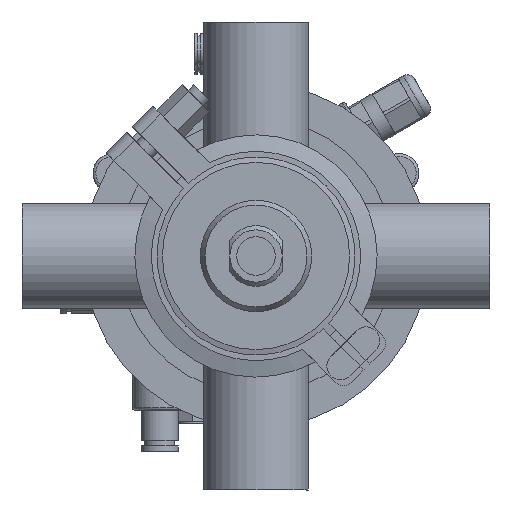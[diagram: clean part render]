
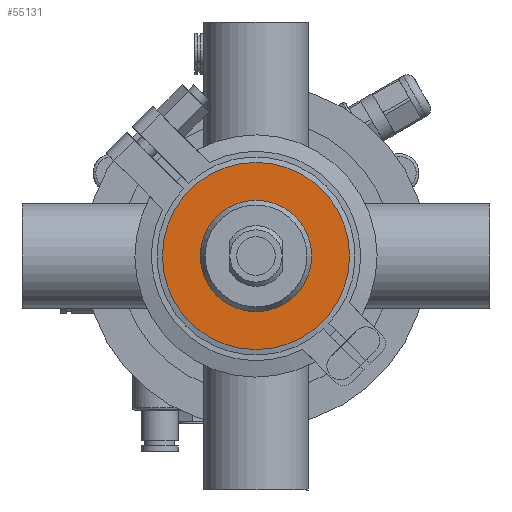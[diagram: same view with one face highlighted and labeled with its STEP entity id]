
A CAD part, front view. The second image highlights one B-rep face of the part: STEP entity #55131.
In plain terms, the highlighted planar face has unit normal (0, -1, 0).
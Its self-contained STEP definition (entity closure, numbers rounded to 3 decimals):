
#1156 = DIRECTION ( 'NONE',  ( 0., -1., 0. ) ) ;
#5902 = EDGE_CURVE ( 'NONE', #35604, #35604, #22207, .T. ) ;
#6818 = CARTESIAN_POINT ( 'NONE',  ( 0., -13., 34. ) ) ;
#14964 = DIRECTION ( 'NONE',  ( 0., 1., 0. ) ) ;
#15429 = EDGE_LOOP ( 'NONE', ( #16932 ) ) ;
#16139 = AXIS2_PLACEMENT_3D ( 'NONE', #49465, #20329, #49159 ) ;
#16417 = FACE_OUTER_BOUND ( 'NONE', #48871, .T. ) ;
#16932 = ORIENTED_EDGE ( 'NONE', *, *, #44991, .T. ) ;
#17458 = AXIS2_PLACEMENT_3D ( 'NONE', #52995, #14964, #62145 ) ;
#20235 = FACE_BOUND ( 'NONE', #15429, .T. ) ;
#20329 = DIRECTION ( 'NONE',  ( 0., 1., 0. ) ) ;
#20544 = DIRECTION ( 'NONE',  ( 0., 0., -1. ) ) ;
#22207 = CIRCLE ( 'NONE', #16139, 34. ) ;
#29553 = CIRCLE ( 'NONE', #17458, 20.25 ) ;
#30308 = CARTESIAN_POINT ( 'NONE',  ( -34., -13., 0. ) ) ;
#30910 = PLANE ( 'NONE',  #45287 ) ;
#35604 = VERTEX_POINT ( 'NONE', #6818 ) ;
#44991 = EDGE_CURVE ( 'NONE', #58608, #58608, #29553, .T. ) ;
#45287 = AXIS2_PLACEMENT_3D ( 'NONE', #30308, #1156, #20544 ) ;
#48871 = EDGE_LOOP ( 'NONE', ( #55255 ) ) ;
#49159 = DIRECTION ( 'NONE',  ( 0., 0., 1. ) ) ;
#49465 = CARTESIAN_POINT ( 'NONE',  ( 0., -13., 0. ) ) ;
#52995 = CARTESIAN_POINT ( 'NONE',  ( 0., -13., 0. ) ) ;
#55131 = ADVANCED_FACE ( 'NONE', ( #20235, #16417 ), #30910, .T. ) ;
#55255 = ORIENTED_EDGE ( 'NONE', *, *, #5902, .F. ) ;
#58608 = VERTEX_POINT ( 'NONE', #58926 ) ;
#58926 = CARTESIAN_POINT ( 'NONE',  ( 0., -13., 20.25 ) ) ;
#62145 = DIRECTION ( 'NONE',  ( 0., 0., 1. ) ) ;
